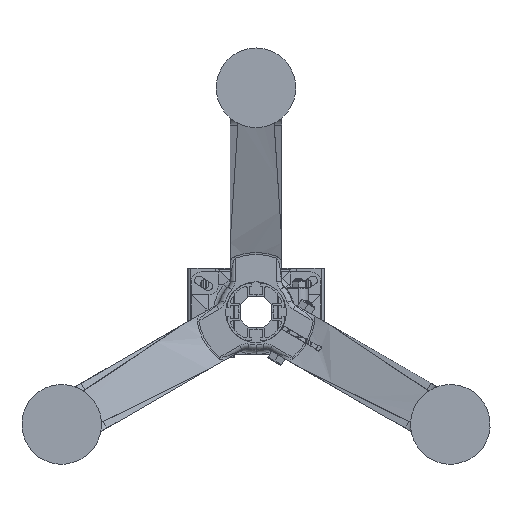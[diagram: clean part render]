
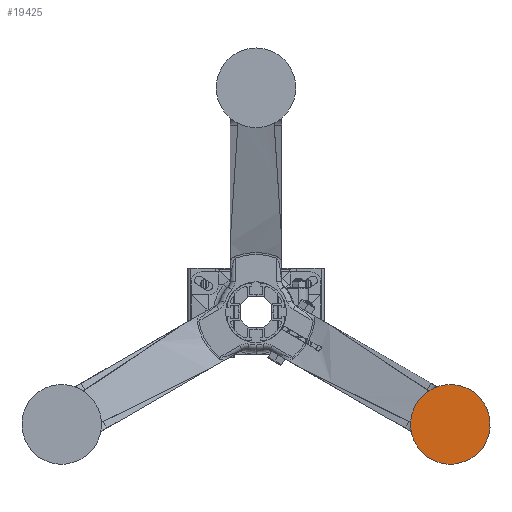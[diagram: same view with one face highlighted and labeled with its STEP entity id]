
A CAD part, front view. The second image highlights one B-rep face of the part: STEP entity #19425.
In plain terms, the highlighted planar face has unit normal (0, -1, 0).
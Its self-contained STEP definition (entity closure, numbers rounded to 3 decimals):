
#10979 = FACE_OUTER_BOUND ( 'NONE', #19560, .T. ) ;
#10988 = PLANE ( 'NONE',  #11046 ) ;
#11027 = DIRECTION ( 'NONE',  ( -0.09, 0., 0.996 ) ) ;
#11029 = DIRECTION ( 'NONE',  ( 0., 1., 0. ) ) ;
#11031 = AXIS2_PLACEMENT_3D ( 'NONE', #11042, #11029, #11027 ) ;
#11033 = CIRCLE ( 'NONE', #11031, 40. ) ;
#11037 = DIRECTION ( 'NONE',  ( -0.09, 0., 0.996 ) ) ;
#11038 = DIRECTION ( 'NONE',  ( 0., 1., 0. ) ) ;
#11040 = CARTESIAN_POINT ( 'NONE',  ( 130.289, -724.5, -153.25 ) ) ;
#11042 = CARTESIAN_POINT ( 'NONE',  ( 130.289, -724.5, -153.25 ) ) ;
#11046 = AXIS2_PLACEMENT_3D ( 'NONE', #11040, #11038, #11037 ) ;
#11071 = DIRECTION ( 'NONE',  ( -0.09, 0., 0.996 ) ) ;
#11073 = DIRECTION ( 'NONE',  ( 0., 1., 0. ) ) ;
#11074 = CARTESIAN_POINT ( 'NONE',  ( 130.289, -724.5, -153.25 ) ) ;
#11076 = AXIS2_PLACEMENT_3D ( 'NONE', #11074, #11073, #11071 ) ;
#11215 = CIRCLE ( 'NONE', #11076, 40. ) ;
#11741 = CARTESIAN_POINT ( 'NONE',  ( 126.685, -724.5, -113.413 ) ) ;
#11842 = CARTESIAN_POINT ( 'NONE',  ( 133.893, -724.5, -193.087 ) ) ;
#19425 = ADVANCED_FACE ( 'NONE', ( #10979 ), #10988, .F. ) ;
#19426 = ORIENTED_EDGE ( 'NONE', *, *, #19432, .F. ) ;
#19432 = EDGE_CURVE ( 'NONE', #19677, #19528, #11033, .T. ) ;
#19460 = EDGE_CURVE ( 'NONE', #19528, #19677, #11215, .T. ) ;
#19528 = VERTEX_POINT ( 'NONE', #11741 ) ;
#19560 = EDGE_LOOP ( 'NONE', ( #19426, #19625 ) ) ;
#19625 = ORIENTED_EDGE ( 'NONE', *, *, #19460, .F. ) ;
#19677 = VERTEX_POINT ( 'NONE', #11842 ) ;
